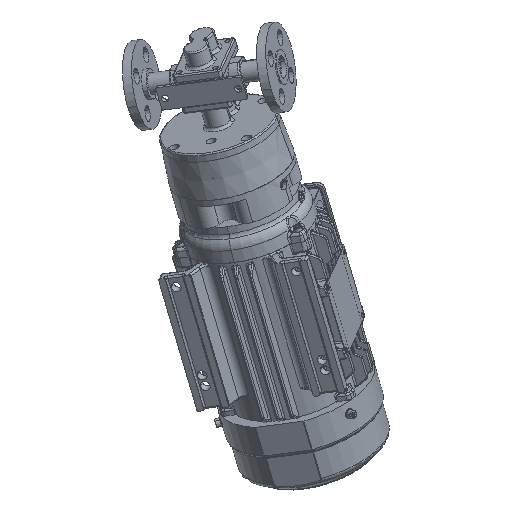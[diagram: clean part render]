
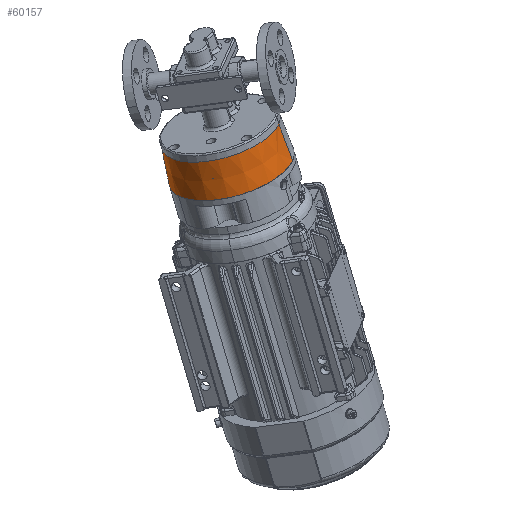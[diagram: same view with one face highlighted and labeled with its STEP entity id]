
A CAD part, isometric view. The second image highlights one B-rep face of the part: STEP entity #60157.
In plain terms, the highlighted conical face has half-angle 4.353 degrees and reference radius 63.5 mm.
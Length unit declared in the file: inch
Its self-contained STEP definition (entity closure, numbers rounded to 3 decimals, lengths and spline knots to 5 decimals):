
#5681 = CARTESIAN_POINT ( 'NONE',  ( -1.27097, 6.16185, 0.97868 ) ) ;
#6579 = LINE ( 'NONE', #90647, #76175 ) ;
#7478 = VERTEX_POINT ( 'NONE', #32313 ) ;
#7531 = DIRECTION ( 'NONE',  ( 0.035, -0.223, -0.974 ) ) ;
#13867 = CARTESIAN_POINT ( 'NONE',  ( -1.14577, 5.69487, -0.59053 ) ) ;
#14854 = DIRECTION ( 'NONE',  ( 0.076, -0.284, -0.956 ) ) ;
#15025 = EDGE_CURVE ( 'NONE', #64028, #61204, #74323, .T. ) ;
#16002 = LINE ( 'NONE', #45009, #93826 ) ;
#17014 = ORIENTED_EDGE ( 'NONE', *, *, #34566, .T. ) ;
#20966 = ORIENTED_EDGE ( 'NONE', *, *, #15025, .T. ) ;
#21130 = ORIENTED_EDGE ( 'NONE', *, *, #44220, .F. ) ;
#24034 = CARTESIAN_POINT ( 'NONE',  ( 0.19319, 3.70295, 0.10908 ) ) ;
#28427 = CARTESIAN_POINT ( 'NONE',  ( 0.00104, 4.26953, 1.64331 ) ) ;
#29614 = AXIS2_PLACEMENT_3D ( 'NONE', #5681, #97195, #59178 ) ;
#32313 = CARTESIAN_POINT ( 'NONE',  ( -2.48473, 7.68679, -1.29013 ) ) ;
#34566 = EDGE_CURVE ( 'NONE', #61204, #7478, #16002, .T. ) ;
#35670 = CONICAL_SURFACE ( 'NONE', #58000, 2.5, 0.076 ) ;
#36190 = FACE_OUTER_BOUND ( 'NONE', #62821, .T. ) ;
#37086 = DIRECTION ( 'NONE',  ( 0.117, -0.344, -0.932 ) ) ;
#44220 = EDGE_CURVE ( 'NONE', #85592, #7478, #56876, .T. ) ;
#45009 = CARTESIAN_POINT ( 'NONE',  ( -2.48473, 7.68679, -1.29013 ) ) ;
#49974 = ORIENTED_EDGE ( 'NONE', *, *, #61766, .F. ) ;
#56876 = CIRCLE ( 'NONE', #80919, 2.5 ) ;
#58000 = AXIS2_PLACEMENT_3D ( 'NONE', #97194, #89744, #82215 ) ;
#59178 = DIRECTION ( 'NONE',  ( -0.536, 0.797, -0.28 ) ) ;
#60157 = ADVANCED_FACE ( 'NONE', ( #36190 ), #35670, .T. ) ;
#61204 = VERTEX_POINT ( 'NONE', #76341 ) ;
#61766 = EDGE_CURVE ( 'NONE', #64028, #85592, #6579, .T. ) ;
#62821 = EDGE_LOOP ( 'NONE', ( #49974, #20966, #17014, #21130 ) ) ;
#64028 = VERTEX_POINT ( 'NONE', #28427 ) ;
#74323 = CIRCLE ( 'NONE', #29614, 2.375 ) ;
#76175 = VECTOR ( 'NONE', #37086, 39.37008 ) ;
#76341 = CARTESIAN_POINT ( 'NONE',  ( -2.54298, 8.05417, 0.31406 ) ) ;
#80919 = AXIS2_PLACEMENT_3D ( 'NONE', #13867, #14854, #83891 ) ;
#82215 = DIRECTION ( 'NONE',  ( -0.536, 0.797, -0.28 ) ) ;
#83891 = DIRECTION ( 'NONE',  ( -0.536, 0.797, -0.28 ) ) ;
#85592 = VERTEX_POINT ( 'NONE', #24034 ) ;
#89744 = DIRECTION ( 'NONE',  ( 0.076, -0.284, -0.956 ) ) ;
#90647 = CARTESIAN_POINT ( 'NONE',  ( 0.19319, 3.70295, 0.10908 ) ) ;
#93826 = VECTOR ( 'NONE', #7531, 39.37008 ) ;
#97194 = CARTESIAN_POINT ( 'NONE',  ( -1.14577, 5.69487, -0.59053 ) ) ;
#97195 = DIRECTION ( 'NONE',  ( 0.076, -0.284, -0.956 ) ) ;
